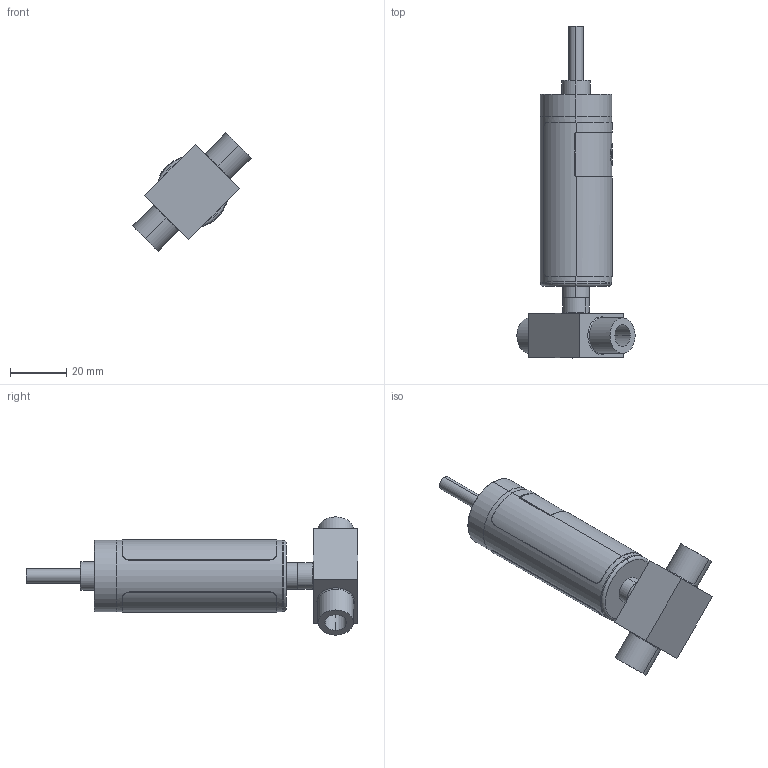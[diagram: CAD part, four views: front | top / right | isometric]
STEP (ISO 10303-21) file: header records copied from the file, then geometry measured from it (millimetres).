
FILE_DESCRIPTION (( 'STEP AP214' ), '1' );
FILE_NAME ('GSF-XXXXXX-P-XXX-2T.STEP', '2025-06-23T15:40:11', ( '' ), ( '' ), 'SwSTEP 2.0', 'SolidWorks 2023', '' );
FILE_SCHEMA (( 'AUTOMOTIVE_DESIGN' ));
Length unit declared in the file: inch
Products named in the file (4): 333125_A333125003; L and P_GIx; GSx Body_Default No Cable; GSF-XXXXXX-P-XXX-2T
Assembly tree (3 placements, depth 2):
  GSF-XXXXXX-P-XXX-2T
    GSx Body_Default No Cable
    L and P_GIx
    333125_A333125003
Bounding box: 42.21 x 118.49 x 42.21 mm (x, y, z)
Volume: 18573.6 mm3; surface area: 19175.7 mm2
Topology: 8 solids, 8 shells, 195 faces, 463 edges, 300 vertices
Faces by surface type: plane 69, cylinder 66, bspline 34, torus 18, cone 8
Entity records: 9196 total; most frequent: CARTESIAN_POINT 4643, ORIENTED_EDGE 926, DIRECTION 858, EDGE_CURVE 463, AXIS2_PLACEMENT_3D 357, VERTEX_POINT 300, EDGE_LOOP 225, FACE_OUTER_BOUND 195
